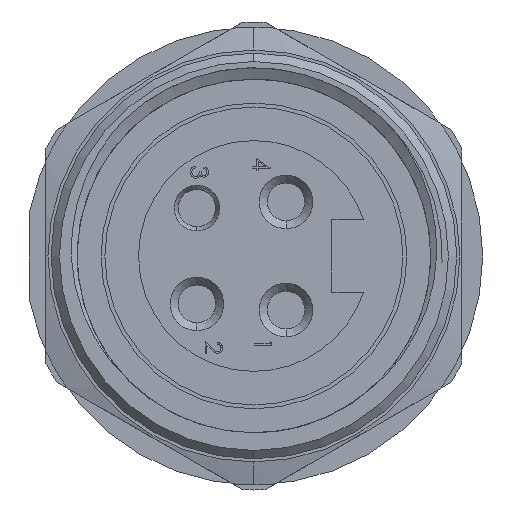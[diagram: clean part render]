
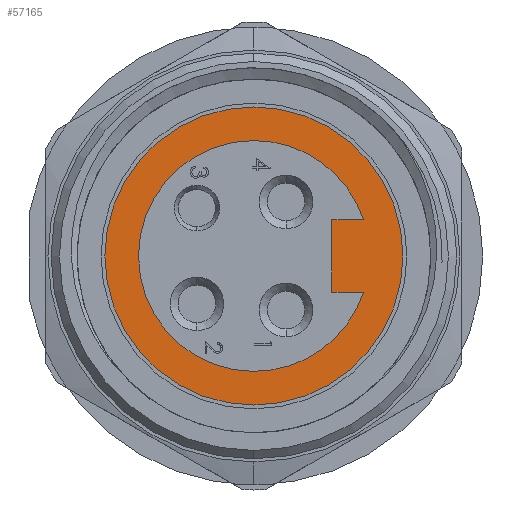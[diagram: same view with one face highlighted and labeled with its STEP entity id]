
A CAD part, left-side view. The second image highlights one B-rep face of the part: STEP entity #57165.
In plain terms, the highlighted planar face has unit normal (-1, 0, 0).
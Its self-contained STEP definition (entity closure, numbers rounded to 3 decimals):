
#489 = AXIS2_PLACEMENT_3D ( 'NONE', #45755, #58604, #65238 ) ;
#2470 = ORIENTED_EDGE ( 'NONE', *, *, #61963, .T. ) ;
#3009 = VERTEX_POINT ( 'NONE', #43862 ) ;
#5269 = EDGE_LOOP ( 'NONE', ( #43411, #2470 ) ) ;
#5366 = EDGE_CURVE ( 'NONE', #43217, #29558, #79163, .T. ) ;
#5978 = ORIENTED_EDGE ( 'NONE', *, *, #5366, .T. ) ;
#6752 = DIRECTION ( 'NONE',  ( -1., 0., 0. ) ) ;
#8148 = CARTESIAN_POINT ( 'NONE',  ( 4.125, -4.76, -2.2 ) ) ;
#8588 = EDGE_CURVE ( 'NONE', #69000, #69201, #76796, .T. ) ;
#11787 = CARTESIAN_POINT ( 'NONE',  ( 4.125, -4.76, 2.2 ) ) ;
#11801 = AXIS2_PLACEMENT_3D ( 'NONE', #45110, #17816, #65830 ) ;
#12707 = CARTESIAN_POINT ( 'NONE',  ( 4.125, 0., 0. ) ) ;
#13593 = DIRECTION ( 'NONE',  ( 0., 0., -1. ) ) ;
#14042 = EDGE_LOOP ( 'NONE', ( #76187, #64187, #5978, #61179, #65279, #68480 ) ) ;
#16519 = VECTOR ( 'NONE', #26930, 1000. ) ;
#16622 = VECTOR ( 'NONE', #50407, 1000. ) ;
#17816 = DIRECTION ( 'NONE',  ( -1., 0., 0. ) ) ;
#18826 = LINE ( 'NONE', #63935, #16622 ) ;
#20237 = AXIS2_PLACEMENT_3D ( 'NONE', #64259, #22289, #50147 ) ;
#20486 = VERTEX_POINT ( 'NONE', #30791 ) ;
#22289 = DIRECTION ( 'NONE',  ( 1., 0., 0. ) ) ;
#23056 = FACE_BOUND ( 'NONE', #14042, .T. ) ;
#26225 = EDGE_CURVE ( 'NONE', #29558, #3009, #79949, .T. ) ;
#26930 = DIRECTION ( 'NONE',  ( 0., -1., 0. ) ) ;
#29558 = VERTEX_POINT ( 'NONE', #8148 ) ;
#30791 = CARTESIAN_POINT ( 'NONE',  ( 4.125, 0., 7.045 ) ) ;
#35093 = CARTESIAN_POINT ( 'NONE',  ( 4.125, 0., 9.1 ) ) ;
#38914 = DIRECTION ( 'NONE',  ( -1., 0., 0. ) ) ;
#42954 = CIRCLE ( 'NONE', #78448, 9.1 ) ;
#43217 = VERTEX_POINT ( 'NONE', #11787 ) ;
#43411 = ORIENTED_EDGE ( 'NONE', *, *, #8588, .T. ) ;
#43862 = CARTESIAN_POINT ( 'NONE',  ( 4.125, -6.693, -2.2 ) ) ;
#44244 = AXIS2_PLACEMENT_3D ( 'NONE', #12707, #6752, #13593 ) ;
#44359 = DIRECTION ( 'NONE',  ( 0., 0., -1. ) ) ;
#44647 = CARTESIAN_POINT ( 'NONE',  ( 4.125, -4.76, 2.2 ) ) ;
#45110 = CARTESIAN_POINT ( 'NONE',  ( 4.125, 0., 0. ) ) ;
#45755 = CARTESIAN_POINT ( 'NONE',  ( 4.125, 0., 0. ) ) ;
#45793 = CIRCLE ( 'NONE', #44244, 7.045 ) ;
#47498 = EDGE_CURVE ( 'NONE', #56046, #3009, #79528, .T. ) ;
#50147 = DIRECTION ( 'NONE',  ( 0., 0., 1. ) ) ;
#50407 = DIRECTION ( 'NONE',  ( 0., 1., 0. ) ) ;
#52855 = EDGE_CURVE ( 'NONE', #20486, #56046, #45793, .T. ) ;
#54901 = AXIS2_PLACEMENT_3D ( 'NONE', #61630, #75177, #55568 ) ;
#55568 = DIRECTION ( 'NONE',  ( 0., 0., -1. ) ) ;
#56046 = VERTEX_POINT ( 'NONE', #74900 ) ;
#57165 = ADVANCED_FACE ( 'NONE', ( #23056, #59560 ), #77788, .F. ) ;
#58604 = DIRECTION ( 'NONE',  ( -1., 0., 0. ) ) ;
#59560 = FACE_OUTER_BOUND ( 'NONE', #5269, .T. ) ;
#59931 = CIRCLE ( 'NONE', #54901, 7.045 ) ;
#60836 = CARTESIAN_POINT ( 'NONE',  ( 4.125, -4.76, -2.2 ) ) ;
#61179 = ORIENTED_EDGE ( 'NONE', *, *, #26225, .T. ) ;
#61630 = CARTESIAN_POINT ( 'NONE',  ( 4.125, 0., 0. ) ) ;
#61963 = EDGE_CURVE ( 'NONE', #69201, #69000, #42954, .T. ) ;
#63513 = EDGE_CURVE ( 'NONE', #78291, #20486, #59931, .T. ) ;
#63935 = CARTESIAN_POINT ( 'NONE',  ( 4.125, -4.76, 2.2 ) ) ;
#64187 = ORIENTED_EDGE ( 'NONE', *, *, #74332, .T. ) ;
#64259 = CARTESIAN_POINT ( 'NONE',  ( 4.125, -9.1, 0. ) ) ;
#65238 = DIRECTION ( 'NONE',  ( 0., 0., -1. ) ) ;
#65279 = ORIENTED_EDGE ( 'NONE', *, *, #47498, .F. ) ;
#65830 = DIRECTION ( 'NONE',  ( 0., 0., -1. ) ) ;
#66535 = DIRECTION ( 'NONE',  ( 0., 0., -1. ) ) ;
#67373 = VECTOR ( 'NONE', #44359, 1000. ) ;
#68480 = ORIENTED_EDGE ( 'NONE', *, *, #52855, .F. ) ;
#69000 = VERTEX_POINT ( 'NONE', #74462 ) ;
#69201 = VERTEX_POINT ( 'NONE', #35093 ) ;
#74332 = EDGE_CURVE ( 'NONE', #78291, #43217, #18826, .T. ) ;
#74462 = CARTESIAN_POINT ( 'NONE',  ( 4.125, 0., -9.1 ) ) ;
#74900 = CARTESIAN_POINT ( 'NONE',  ( 4.125, 0., -7.045 ) ) ;
#75177 = DIRECTION ( 'NONE',  ( -1., 0., 0. ) ) ;
#76187 = ORIENTED_EDGE ( 'NONE', *, *, #63513, .F. ) ;
#76796 = CIRCLE ( 'NONE', #489, 9.1 ) ;
#77788 = PLANE ( 'NONE',  #20237 ) ;
#78291 = VERTEX_POINT ( 'NONE', #78608 ) ;
#78448 = AXIS2_PLACEMENT_3D ( 'NONE', #79745, #38914, #66535 ) ;
#78608 = CARTESIAN_POINT ( 'NONE',  ( 4.125, -6.693, 2.2 ) ) ;
#79163 = LINE ( 'NONE', #44647, #67373 ) ;
#79528 = CIRCLE ( 'NONE', #11801, 7.045 ) ;
#79745 = CARTESIAN_POINT ( 'NONE',  ( 4.125, 0., 0. ) ) ;
#79949 = LINE ( 'NONE', #60836, #16519 ) ;
